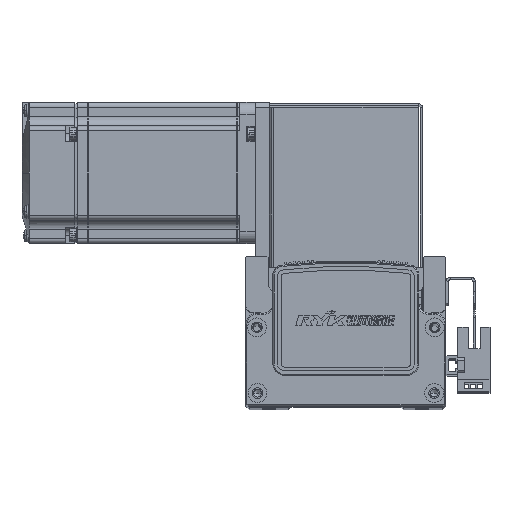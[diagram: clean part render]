
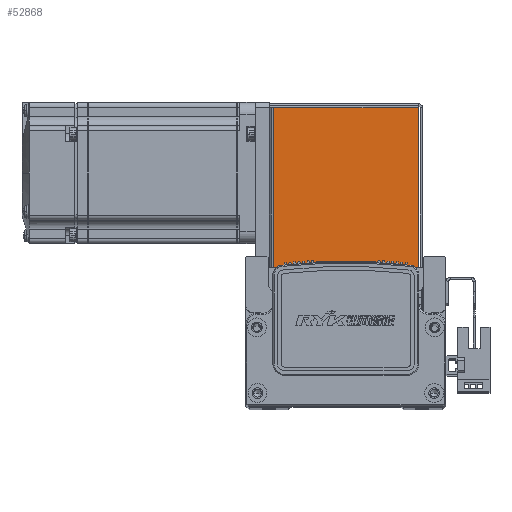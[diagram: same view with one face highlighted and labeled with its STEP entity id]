
A CAD part, top view. The second image highlights one B-rep face of the part: STEP entity #52868.
In plain terms, the highlighted planar face has unit normal (0, 0, 1).
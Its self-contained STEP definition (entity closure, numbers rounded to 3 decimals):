
#2467 = LINE ( 'NONE', #38461, #2506 ) ;
#2506 = VECTOR ( 'NONE', #38419, 1000. ) ;
#2545 = VECTOR ( 'NONE', #38531, 1000. ) ;
#2564 = LINE ( 'NONE', #38530, #2545 ) ;
#21034 = CARTESIAN_POINT ( 'NONE',  ( 0., 68.5, 35. ) ) ;
#21056 = DIRECTION ( 'NONE',  ( -1., 0., 0. ) ) ;
#21106 = DIRECTION ( 'NONE',  ( -1., 0., 0. ) ) ;
#21116 = CARTESIAN_POINT ( 'NONE',  ( -32.5, 0.737, 35. ) ) ;
#31424 = VERTEX_POINT ( 'NONE', #32120 ) ;
#31435 = VERTEX_POINT ( 'NONE', #32197 ) ;
#31451 = VERTEX_POINT ( 'NONE', #32203 ) ;
#31499 = VERTEX_POINT ( 'NONE', #32215 ) ;
#32120 = CARTESIAN_POINT ( 'NONE',  ( 30.763, 0.737, 35. ) ) ;
#32197 = CARTESIAN_POINT ( 'NONE',  ( -30.793, 68.5, 35. ) ) ;
#32203 = CARTESIAN_POINT ( 'NONE',  ( 30.763, 68.5, 35. ) ) ;
#32215 = CARTESIAN_POINT ( 'NONE',  ( -30.793, 0.737, 35. ) ) ;
#38419 = DIRECTION ( 'NONE',  ( 0., 1., 0. ) ) ;
#38461 = CARTESIAN_POINT ( 'NONE',  ( 30.763, 0.737, 35. ) ) ;
#38530 = CARTESIAN_POINT ( 'NONE',  ( -30.793, 0., 35. ) ) ;
#38531 = DIRECTION ( 'NONE',  ( 0., 1., 0. ) ) ;
#52868 = ADVANCED_FACE ( 'NONE', ( #61623 ), #70801, .F. ) ;
#58610 = EDGE_CURVE ( 'NONE', #31424, #31499, #61828, .T. ) ;
#58611 = EDGE_CURVE ( 'NONE', #31451, #31435, #61764, .T. ) ;
#58650 = EDGE_CURVE ( 'NONE', #31424, #31451, #2467, .T. ) ;
#58671 = EDGE_CURVE ( 'NONE', #31499, #31435, #2564, .T. ) ;
#59859 = EDGE_LOOP ( 'NONE', ( #64488, #64491, #64490, #64407 ) ) ;
#61623 = FACE_OUTER_BOUND ( 'NONE', #59859, .T. ) ;
#61764 = LINE ( 'NONE', #21034, #61884 ) ;
#61828 = LINE ( 'NONE', #21116, #61848 ) ;
#61848 = VECTOR ( 'NONE', #21106, 1000. ) ;
#61884 = VECTOR ( 'NONE', #21056, 1000. ) ;
#63603 = AXIS2_PLACEMENT_3D ( 'NONE', #70825, #70829, #70854 ) ;
#64407 = ORIENTED_EDGE ( 'NONE', *, *, #58610, .F. ) ;
#64488 = ORIENTED_EDGE ( 'NONE', *, *, #58650, .T. ) ;
#64490 = ORIENTED_EDGE ( 'NONE', *, *, #58671, .F. ) ;
#64491 = ORIENTED_EDGE ( 'NONE', *, *, #58611, .T. ) ;
#70801 = PLANE ( 'NONE',  #63603 ) ;
#70825 = CARTESIAN_POINT ( 'NONE',  ( 0., 0., 35. ) ) ;
#70829 = DIRECTION ( 'NONE',  ( 0., 0., -1. ) ) ;
#70854 = DIRECTION ( 'NONE',  ( -1., 0., 0. ) ) ;
